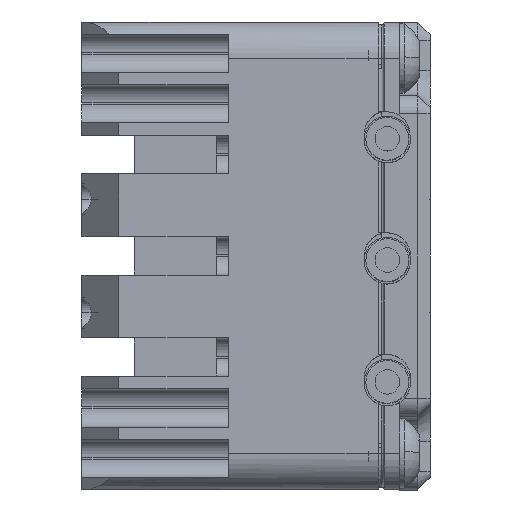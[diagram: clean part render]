
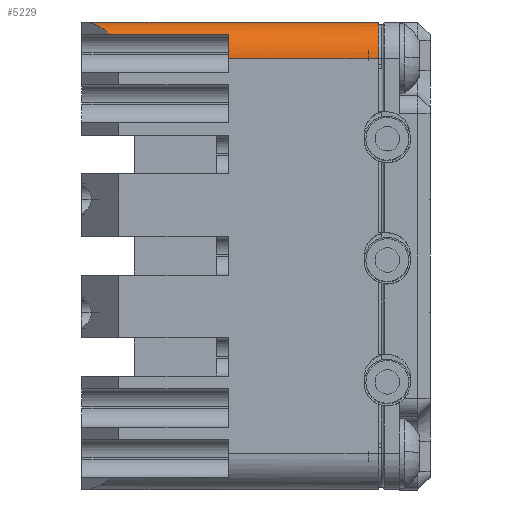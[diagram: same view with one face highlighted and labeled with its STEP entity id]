
A CAD part, left-side view. The second image highlights one B-rep face of the part: STEP entity #5229.
In plain terms, the highlighted cylindrical face has radius 3 mm (diameter 6 mm), a partial arc.
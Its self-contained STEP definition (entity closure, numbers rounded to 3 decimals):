
#140 = CARTESIAN_POINT ( 'NONE',  ( -89.77, 28.5, 0. ) ) ;
#333 = ORIENTED_EDGE ( 'NONE', *, *, #19156, .F. ) ;
#1680 = ORIENTED_EDGE ( 'NONE', *, *, #17523, .F. ) ;
#2303 = ORIENTED_EDGE ( 'NONE', *, *, #22677, .T. ) ;
#2314 = DIRECTION ( 'NONE',  ( 0., 1., 0. ) ) ;
#4005 = AXIS2_PLACEMENT_3D ( 'NONE', #21942, #14027, #19181 ) ;
#4012 = CARTESIAN_POINT ( 'NONE',  ( -92.77, 4.25, -3. ) ) ;
#4039 = EDGE_CURVE ( 'NONE', #24364, #5380, #24948, .T. ) ;
#5053 = DIRECTION ( 'NONE',  ( -1., 0., 0. ) ) ;
#5229 = ADVANCED_FACE ( 'NONE', ( #28771 ), #23789, .T. ) ;
#5380 = VERTEX_POINT ( 'NONE', #26807 ) ;
#6498 = DIRECTION ( 'NONE',  ( 0., 1., 0. ) ) ;
#6999 = DIRECTION ( 'NONE',  ( -1., 0., 0. ) ) ;
#7280 = CIRCLE ( 'NONE', #4005, 3. ) ;
#7284 =( BOUNDED_CURVE ( )  B_SPLINE_CURVE ( 3, ( #24225, #12805, #32641, #33777 ),
 .UNSPECIFIED., .F., .F. ) 
 B_SPLINE_CURVE_WITH_KNOTS ( ( 4, 4 ),
 ( 3.872, 4.712 ),
 .UNSPECIFIED. ) 
 CURVE ( )  GEOMETRIC_REPRESENTATION_ITEM ( )  RATIONAL_B_SPLINE_CURVE ( ( 1., 0.942, 0.942, 1. ) ) 
 REPRESENTATION_ITEM ( '' )  );
#7948 = CARTESIAN_POINT ( 'NONE',  ( -92.005, 26.265, -0.999 ) ) ;
#12008 = LINE ( 'NONE', #17339, #13934 ) ;
#12766 = CARTESIAN_POINT ( 'NONE',  ( -89.77, 4.25, 0. ) ) ;
#12805 = CARTESIAN_POINT ( 'NONE',  ( -91.427, 26.843, -0.354 ) ) ;
#13934 = VECTOR ( 'NONE', #6498, 1000. ) ;
#14027 = DIRECTION ( 'NONE',  ( 0., 1., 0. ) ) ;
#15362 = CARTESIAN_POINT ( 'NONE',  ( -89.77, 24., -3. ) ) ;
#16819 = CARTESIAN_POINT ( 'NONE',  ( -92.005, 16.5, -0.999 ) ) ;
#16925 = ORIENTED_EDGE ( 'NONE', *, *, #24566, .F. ) ;
#17339 = CARTESIAN_POINT ( 'NONE',  ( -92.77, 24., -3. ) ) ;
#17523 = EDGE_CURVE ( 'NONE', #27197, #5380, #12008, .T. ) ;
#17654 = DIRECTION ( 'NONE',  ( 0., -1., 0. ) ) ;
#17943 = VECTOR ( 'NONE', #18666, 1000. ) ;
#18666 = DIRECTION ( 'NONE',  ( 0., -1., 0. ) ) ;
#19156 = EDGE_CURVE ( 'NONE', #26472, #33458, #7284, .T. ) ;
#19181 = DIRECTION ( 'NONE',  ( 0., 0., -1. ) ) ;
#20237 = CARTESIAN_POINT ( 'NONE',  ( -89.77, 16.5, -3. ) ) ;
#20942 = EDGE_LOOP ( 'NONE', ( #1680, #25219, #16925, #333, #2303, #28136 ) ) ;
#21942 = CARTESIAN_POINT ( 'NONE',  ( -89.77, 4.25, -3. ) ) ;
#22433 = VECTOR ( 'NONE', #24734, 1000. ) ;
#22677 = EDGE_CURVE ( 'NONE', #26472, #24364, #31568, .T. ) ;
#23789 = CYLINDRICAL_SURFACE ( 'NONE', #23828, 3. ) ;
#23828 = AXIS2_PLACEMENT_3D ( 'NONE', #15362, #2314, #5053 ) ;
#24225 = CARTESIAN_POINT ( 'NONE',  ( -92.005, 26.265, -0.999 ) ) ;
#24364 = VERTEX_POINT ( 'NONE', #16819 ) ;
#24566 = EDGE_CURVE ( 'NONE', #33458, #26318, #30737, .T. ) ;
#24734 = DIRECTION ( 'NONE',  ( 0., -1., 0. ) ) ;
#24948 = CIRCLE ( 'NONE', #28758, 3. ) ;
#25219 = ORIENTED_EDGE ( 'NONE', *, *, #32222, .T. ) ;
#26318 = VERTEX_POINT ( 'NONE', #12766 ) ;
#26472 = VERTEX_POINT ( 'NONE', #7948 ) ;
#26807 = CARTESIAN_POINT ( 'NONE',  ( -92.77, 16.5, -3. ) ) ;
#26918 = CARTESIAN_POINT ( 'NONE',  ( -92.005, 24., -0.999 ) ) ;
#27197 = VERTEX_POINT ( 'NONE', #4012 ) ;
#28136 = ORIENTED_EDGE ( 'NONE', *, *, #4039, .T. ) ;
#28758 = AXIS2_PLACEMENT_3D ( 'NONE', #20237, #17654, #6999 ) ;
#28771 = FACE_OUTER_BOUND ( 'NONE', #20942, .T. ) ;
#30737 = LINE ( 'NONE', #33153, #22433 ) ;
#31568 = LINE ( 'NONE', #26918, #17943 ) ;
#32222 = EDGE_CURVE ( 'NONE', #27197, #26318, #7280, .T. ) ;
#32641 = CARTESIAN_POINT ( 'NONE',  ( -90.636, 27.634, 0. ) ) ;
#33153 = CARTESIAN_POINT ( 'NONE',  ( -89.77, 24., 0. ) ) ;
#33458 = VERTEX_POINT ( 'NONE', #140 ) ;
#33777 = CARTESIAN_POINT ( 'NONE',  ( -89.77, 28.5, 0. ) ) ;
